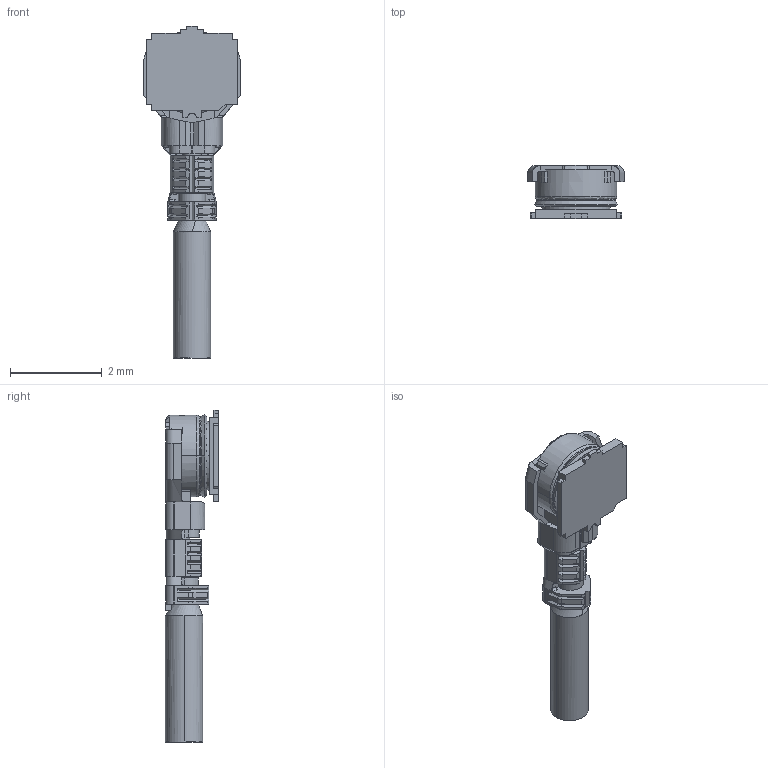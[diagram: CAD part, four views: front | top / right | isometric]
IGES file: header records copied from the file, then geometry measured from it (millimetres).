
Start section: SolidWorks IGES file using analytic representation for surfaces
Global section: file name: C:\3dwork\imaji\00.Web model check\00. New 3D\MHF 4L\20449-001E+20572-001R-08C MATING IGES R5R3 ALL.IGS; native system: SolidWorks 2017; preprocessor: SolidWorks 2017; author: ipxcad-013; date: 180427.175036; units: millimetre
Bounding box: 2.1 x 1.16 x 7.22 mm (x, y, z)
Surface area: 36.6 mm2 (no closed solid volume)
Topology: 0 solids, 0 shells, 337 faces, 2134 edges, 2130 vertices
Faces by surface type: bspline 242, revolution 95
